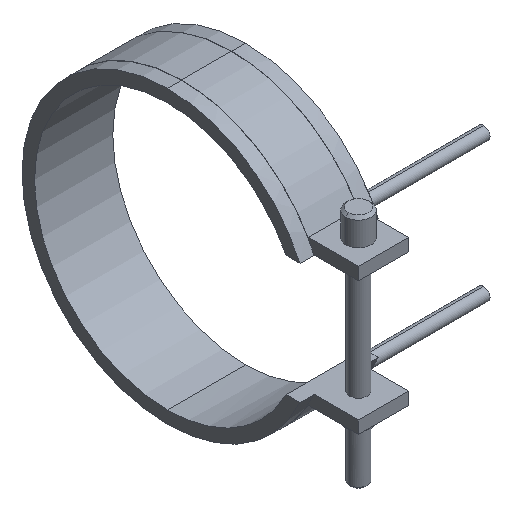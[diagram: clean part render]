
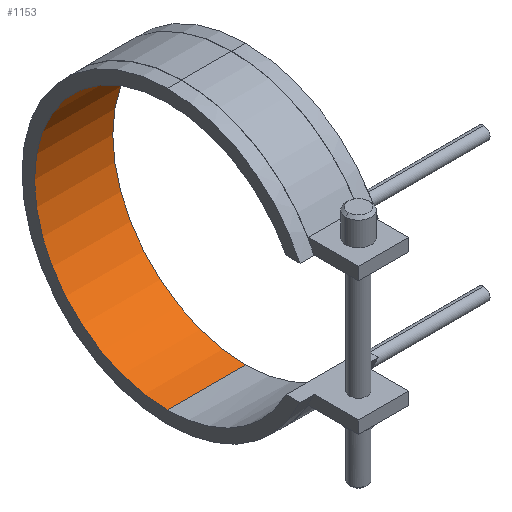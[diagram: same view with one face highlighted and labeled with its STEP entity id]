
A CAD part, isometric view. The second image highlights one B-rep face of the part: STEP entity #1153.
In plain terms, the highlighted cylindrical face has radius 42.5 mm (diameter 85 mm), a partial arc.
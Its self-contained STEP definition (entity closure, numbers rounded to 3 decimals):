
#834=CARTESIAN_POINT('Vertex',(-12.5,0.,-42.5)) ;
#841=CARTESIAN_POINT('Vertex',(12.5,0.,-42.5)) ;
#844=CARTESIAN_POINT('Line Origine',(12.5,0.,-42.5)) ;
#862=CARTESIAN_POINT('Axis2P3D Location',(-12.5,0.,0.)) ;
#866=CARTESIAN_POINT('Vertex',(-12.5,0.,42.5)) ;
#923=CARTESIAN_POINT('Vertex',(12.5,0.,42.5)) ;
#933=CARTESIAN_POINT('Line Origine',(12.5,0.,42.5)) ;
#1024=CARTESIAN_POINT('Axis2P3D Location',(12.5,0.,0.)) ;
#1142=CARTESIAN_POINT('Axis2P3D Location',(12.5,0.,0.)) ;
#845=DIRECTION('Vector Direction',(1.,0.,0.)) ;
#863=DIRECTION('Axis2P3D Direction',(1.,0.,0.)) ;
#934=DIRECTION('Vector Direction',(1.,0.,0.)) ;
#1025=DIRECTION('Axis2P3D Direction',(1.,0.,0.)) ;
#1143=DIRECTION('Axis2P3D Direction',(1.,0.,-0.)) ;
#1144=DIRECTION('Axis2P3D XDirection',(0.,0.,-1.)) ;
#864=AXIS2_PLACEMENT_3D('Circle Axis2P3D',#862,#863,$) ;
#1026=AXIS2_PLACEMENT_3D('Circle Axis2P3D',#1024,#1025,$) ;
#1145=AXIS2_PLACEMENT_3D('Cylinder Axis2P3D',#1142,#1143,#1144) ;
#1148=ORIENTED_EDGE('',*,*,#1028,.T.) ;
#1149=ORIENTED_EDGE('',*,*,#937,.T.) ;
#1150=ORIENTED_EDGE('',*,*,#868,.F.) ;
#1151=ORIENTED_EDGE('',*,*,#848,.T.) ;
#846=VECTOR('Line Direction',#845,1.) ;
#935=VECTOR('Line Direction',#934,1.) ;
#1153=ADVANCED_FACE('14085025',(#1152),#1146,.F.) ;
#865=CIRCLE('generated circle',#864,42.5) ;
#1027=CIRCLE('generated circle',#1026,42.5) ;
#1146=CYLINDRICAL_SURFACE('generated cylinder',#1145,42.5) ;
#848=EDGE_CURVE('',#835,#842,#847,.T.) ;
#868=EDGE_CURVE('',#835,#867,#865,.T.) ;
#937=EDGE_CURVE('',#924,#867,#936,.F.) ;
#1028=EDGE_CURVE('',#842,#924,#1027,.T.) ;
#1147=EDGE_LOOP('',(#1148,#1149,#1150,#1151)) ;
#1152=FACE_OUTER_BOUND('',#1147,.T.) ;
#847=LINE('Line',#844,#846) ;
#936=LINE('Line',#933,#935) ;
#835=VERTEX_POINT('',#834) ;
#842=VERTEX_POINT('',#841) ;
#867=VERTEX_POINT('',#866) ;
#924=VERTEX_POINT('',#923) ;
